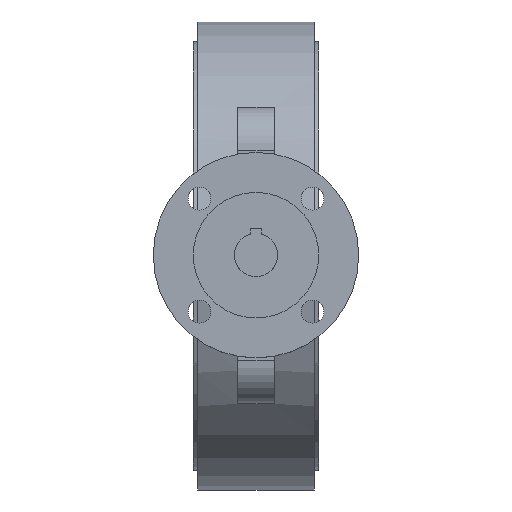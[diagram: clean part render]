
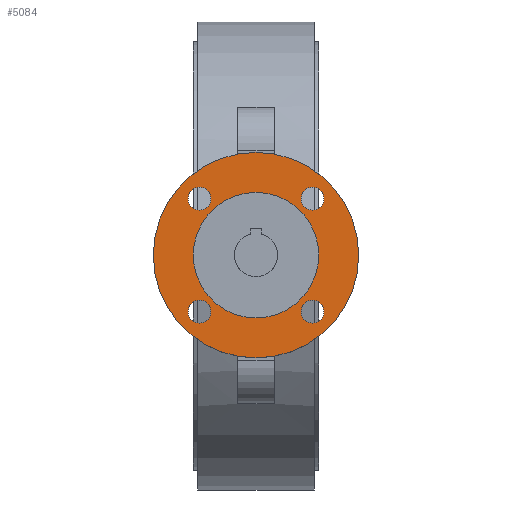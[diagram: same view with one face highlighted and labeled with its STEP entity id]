
A CAD part, top view. The second image highlights one B-rep face of the part: STEP entity #5084.
In plain terms, the highlighted planar face has unit normal (0, 0, 1).
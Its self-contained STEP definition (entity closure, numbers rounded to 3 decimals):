
#5084=ADVANCED_FACE('',(#10551,#10553,#10555,#10557,#10559,#10561),#10563,.T.);
#10551=FACE_BOUND('',#10552,.T.);
#10552=EDGE_LOOP('',(#15063));
#10553=FACE_BOUND('',#10554,.T.);
#10554=EDGE_LOOP('',(#15064));
#10555=FACE_BOUND('',#10556,.T.);
#10556=EDGE_LOOP('',(#15065));
#10557=FACE_BOUND('',#10558,.T.);
#10558=EDGE_LOOP('',(#15066));
#10559=FACE_BOUND('',#10560,.T.);
#10560=EDGE_LOOP('',(#15067));
#10561=FACE_BOUND('',#10562,.T.);
#10562=EDGE_LOOP('',(#15068));
#10563=PLANE('',#10564);
#10564=AXIS2_PLACEMENT_3D('',#10565,#10566,#10567);
#10565=CARTESIAN_POINT('',(0.,0.,210.));
#10566=DIRECTION('',(0.,0.,1.));
#10567=DIRECTION('',(0.,1.,0.));
#15063=ORIENTED_EDGE('',*,*,#17433,.F.);
#15064=ORIENTED_EDGE('',*,*,#17434,.T.);
#15065=ORIENTED_EDGE('',*,*,#17435,.T.);
#15066=ORIENTED_EDGE('',*,*,#17436,.T.);
#15067=ORIENTED_EDGE('',*,*,#17587,.T.);
#15068=ORIENTED_EDGE('',*,*,#17437,.T.);
#17433=EDGE_CURVE('',#20572,#20572,#20573,.T.);
#17434=EDGE_CURVE('',#20574,#20574,#20575,.F.);
#17435=EDGE_CURVE('',#20576,#20576,#20577,.F.);
#17436=EDGE_CURVE('',#20578,#20578,#20579,.F.);
#17437=EDGE_CURVE('',#20580,#20580,#20581,.F.);
#17587=EDGE_CURVE('',#20880,#20880,#20881,.T.);
#20572=VERTEX_POINT('',#28421);
#20573=CIRCLE('',#28422,45.);
#20574=VERTEX_POINT('',#28426);
#20575=CIRCLE('',#28427,5.);
#20576=VERTEX_POINT('',#28431);
#20577=CIRCLE('',#28432,5.);
#20578=VERTEX_POINT('',#28436);
#20579=CIRCLE('',#28437,5.);
#20580=VERTEX_POINT('',#28441);
#20581=CIRCLE('',#28442,5.);
#20880=VERTEX_POINT('',#29245);
#20881=CIRCLE('',#29246,27.5);
#28421=CARTESIAN_POINT('',(0.,45.,210.));
#28422=AXIS2_PLACEMENT_3D('',#28423,#28424,#28425);
#28423=CARTESIAN_POINT('',(0.,0.,210.));
#28424=DIRECTION('',(0.,0.,-1.));
#28425=DIRECTION('',(0.,1.,0.));
#28426=CARTESIAN_POINT('',(-19.749,-24.749,210.));
#28427=AXIS2_PLACEMENT_3D('',#28428,#28429,#28430);
#28428=CARTESIAN_POINT('',(-24.749,-24.749,210.));
#28429=DIRECTION('',(0.,0.,1.));
#28430=DIRECTION('',(1.,0.,0.));
#28431=CARTESIAN_POINT('',(-24.749,19.749,210.));
#28432=AXIS2_PLACEMENT_3D('',#28433,#28434,#28435);
#28433=CARTESIAN_POINT('',(-24.749,24.749,210.));
#28434=DIRECTION('',(0.,0.,1.));
#28435=DIRECTION('',(0.,-1.,0.));
#28436=CARTESIAN_POINT('',(19.749,24.749,210.));
#28437=AXIS2_PLACEMENT_3D('',#28438,#28439,#28440);
#28438=CARTESIAN_POINT('',(24.749,24.749,210.));
#28439=DIRECTION('',(0.,0.,1.));
#28440=DIRECTION('',(-1.,0.,0.));
#28441=CARTESIAN_POINT('',(24.749,-19.749,210.));
#28442=AXIS2_PLACEMENT_3D('',#28443,#28444,#28445);
#28443=CARTESIAN_POINT('',(24.749,-24.749,210.));
#28444=DIRECTION('',(0.,0.,1.));
#28445=DIRECTION('',(0.,1.,0.));
#29245=CARTESIAN_POINT('',(0.,27.5,210.));
#29246=AXIS2_PLACEMENT_3D('',#29247,#29248,#29249);
#29247=CARTESIAN_POINT('',(0.,0.,210.));
#29248=DIRECTION('',(0.,0.,-1.));
#29249=DIRECTION('',(0.,1.,0.));
